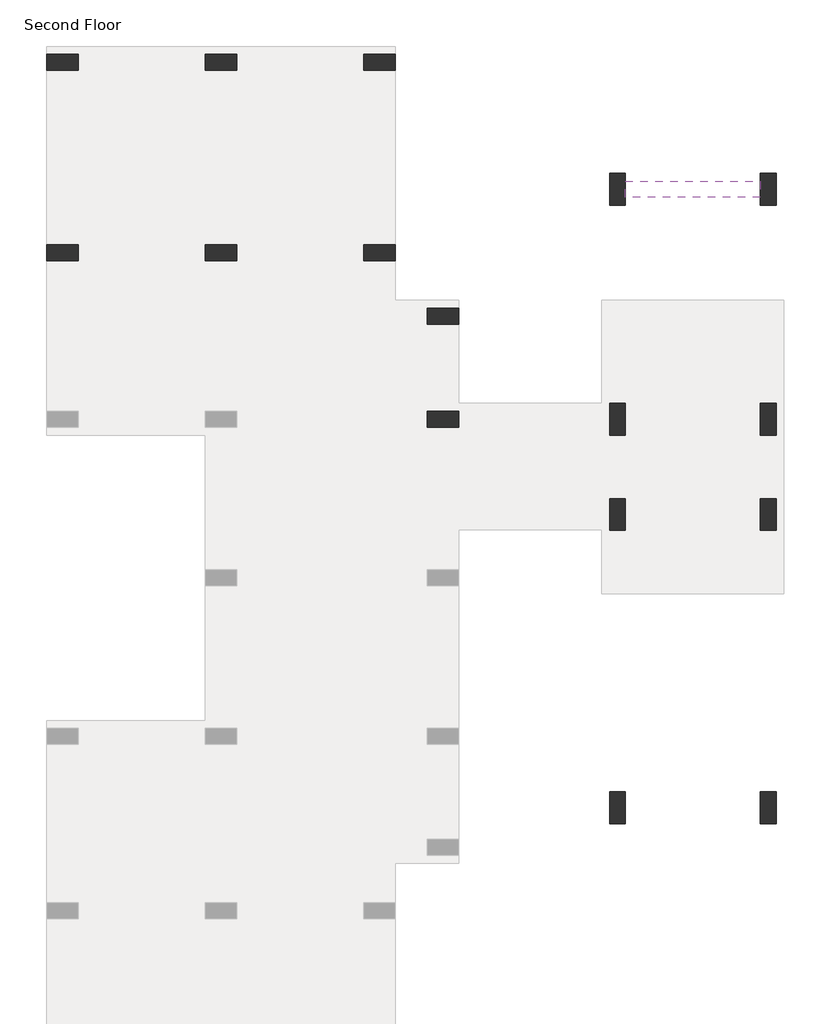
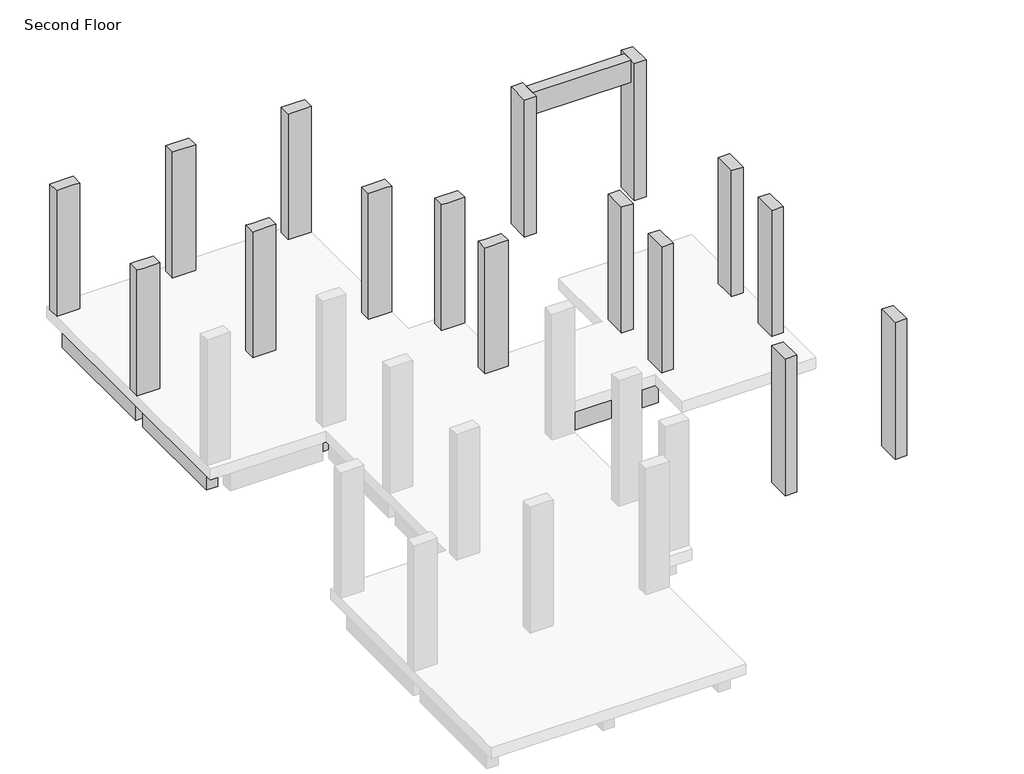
# One storey, part 2 of 2: 25 columns, 18 beams.
"""IFC4 building model written with IfcOpenShell, lengths in millimetres."""

import ifcopenshell
import ifcopenshell.guid

model = None  # the IFC model being written
_history = None  # IfcOwnerHistory: only IFC2X3 demands one
_inside = {}  # id of a spatial element -> (the spatial element, [elements in it])
_under = {}  # id of a project, library or spatial element -> (it, [spatial elements below it])
_declared = {}  # id of a project -> (the project, [libraries it declares])
_typed = {}  # id of a type object -> (the type object, [elements of that type])
_made_of = {}  # id of a material, layer set ... -> (it, [elements and type objects made of it])


def new_model(schema):
    """Start an empty IFC model of exactly this schema.

    Asked for "IFC4X3", IfcOpenShell would pick the latest addendum, in which some entities
    have other attributes; the version numbers below select the first issue.
    IFC2X3 requires an IfcOwnerHistory on every rooted entity: one is made here for all.
    """
    global model, _history
    if schema == "IFC4X3":
        model = ifcopenshell.file(schema_version=(4, 3, 0, 0))
    else:
        model = ifcopenshell.file(schema=schema)
    _inside.clear()
    _under.clear()
    _declared.clear()
    _typed.clear()
    _made_of.clear()
    _history = None
    if model.schema == "IFC2X3":
        org = make("IfcOrganization", Name="unknown")
        user = make(
            "IfcPersonAndOrganization",
            ThePerson=make("IfcPerson", FamilyName="unknown"),
            TheOrganization=org,
        )
        app = make(
            "IfcApplication",
            ApplicationDeveloper=org,
            Version="unknown",
            ApplicationFullName="unknown",
            ApplicationIdentifier="unknown",
        )
        _history = make(
            "IfcOwnerHistory",
            OwningUser=user,
            OwningApplication=app,
            ChangeAction="ADDED",
            CreationDate=0,
        )
    return model


def make(cls, **values):
    """One entity of the class cls with the attributes given. An attribute that is None is left unset."""
    return model.create_entity(
        cls, **{name: value for name, value in values.items() if value is not None}
    )


def rooted(cls, **values):
    """An entity with a GlobalId (a new one), such as an element, a storey or a relation."""
    return make(cls, GlobalId=ifcopenshell.guid.new(), OwnerHistory=_history, **values)


def si_unit(unit_type, name, prefix=None):
    """IfcSIUnit, for example si_unit("LENGTHUNIT", "METRE", prefix="MILLI")."""
    return make("IfcSIUnit", UnitType=unit_type, Prefix=prefix, Name=name)


def assignment(units):
    """IfcUnitAssignment: the units of a project."""
    return None if units is None else make("IfcUnitAssignment", Units=units)


def point(xyz):
    """IfcCartesianPoint."""
    return None if xyz is None else make("IfcCartesianPoint", Coordinates=xyz)


def direction(xyz):
    """IfcDirection."""
    return None if xyz is None else make("IfcDirection", DirectionRatios=xyz)


def frame(location, z_axis=None, x_axis=None):
    """IfcAxis2Placement3D, a coordinate frame: its origin and axes. An axis left out is left unset."""
    return make(
        "IfcAxis2Placement3D",
        Location=point(location),
        Axis=direction(z_axis),
        RefDirection=direction(x_axis),
    )


def origin():
    """The frame at (0, 0, 0) with its axes left unset."""
    return frame((0.0, 0.0, 0.0))


def place(relative_to, where):
    """IfcLocalPlacement: puts the frame where relative to a parent placement (None: the world)."""
    return make(
        "IfcLocalPlacement", PlacementRelTo=relative_to, RelativePlacement=where
    )


def context(
    kind, dimensions, precision=None, world=None, true_north=None, identifier=None
):
    """IfcGeometricRepresentationContext, for example the 3D "Model" context."""
    return make(
        "IfcGeometricRepresentationContext",
        ContextIdentifier=identifier,
        ContextType=kind,
        CoordinateSpaceDimension=dimensions,
        Precision=precision,
        WorldCoordinateSystem=world,
        TrueNorth=true_north,
    )


def project(units=None, contexts=None):
    """IfcProject with its units and contexts."""
    return rooted(
        "IfcProject",
        Name="project",
        RepresentationContexts=contexts,
        UnitsInContext=assignment(units),
    )


def spatial(cls, under=None, at=None, **own):
    """A site, building, storey or space (cls), placed at a placement, below another one or the project."""
    s = rooted(cls, ObjectPlacement=at, **own)
    if under is not None:
        _under.setdefault(under.id(), (under, []))[1].append(s)
    return s


def polyline(points):
    """IfcPolyline through the points."""
    return make("IfcPolyline", Points=[point(p) for p in points])


def outline(outer, holes=None, kind="AREA"):
    """IfcArbitraryClosedProfileDef: a profile drawn as a closed curve; with holes, ...WithVoids."""
    if holes is None:
        return make("IfcArbitraryClosedProfileDef", ProfileType=kind, OuterCurve=outer)
    return make(
        "IfcArbitraryProfileDefWithVoids",
        ProfileType=kind,
        OuterCurve=outer,
        InnerCurves=holes,
    )


def extrude(swept, where, along, depth):
    """IfcExtrudedAreaSolid: the profile swept, set in the frame where, extruded along a direction by depth."""
    return make(
        "IfcExtrudedAreaSolid",
        SweptArea=swept,
        Position=where,
        ExtrudedDirection=direction(along),
        Depth=depth,
    )


def faces_of(points, faces, orient=None, outer=None):
    """IfcFace entities. A face is a list of loops; a loop is a list of indices into points, from 0.

    orient and outer hold one flag for each loop. By default every Orientation is true, the
    first loop of a face is its IfcFaceOuterBound and the others are IfcFaceBound.
    """
    made = []
    for i, loops in enumerate(faces):
        bounds = []
        for j, loop in enumerate(loops):
            is_outer = j == 0 if outer is None else outer[i][j]
            bounds.append(
                make(
                    "IfcFaceOuterBound" if is_outer else "IfcFaceBound",
                    Bound=make("IfcPolyLoop", Polygon=[points[k] for k in loop]),
                    Orientation=True if orient is None else orient[i][j],
                )
            )
        made.append(make("IfcFace", Bounds=bounds))
    return made


def faceted_brep(points, faces, orient=None, outer=None, voids=None):
    """IfcFacetedBrep: a solid bounded by flat faces; with voids (closed shells), ...WithVoids."""
    shared = [point(p) for p in points]
    hull = make("IfcClosedShell", CfsFaces=faces_of(shared, faces, orient, outer))
    if voids is None:
        return make("IfcFacetedBrep", Outer=hull)
    return make(
        "IfcFacetedBrepWithVoids",
        Outer=hull,
        Voids=[
            make(cls, CfsFaces=faces_of(shared, fs, o, b)) for cls, fs, o, b in voids
        ],
    )


def shape(context_of_items, identifier, shape_type, items):
    """IfcShapeRepresentation: the items that make up one representation, for example the "Body"."""
    return make(
        "IfcShapeRepresentation",
        ContextOfItems=context_of_items,
        RepresentationIdentifier=identifier,
        RepresentationType=shape_type,
        Items=items,
    )


def made_of(thing, what):
    """Note that an element or type object is made of a material, layer set ...; save() writes the relation."""
    if what is not None:
        _made_of.setdefault(what.id(), (what, []))[1].append(thing)
    return thing


def element(
    cls,
    number,
    at=None,
    inside=None,
    cuts=None,
    type_object=None,
    material=None,
    context=None,
    identifier="Body",
    shape_type=None,
    held_by="IfcProductDefinitionShape",
    body=None,
    shapes=None,
    **own,
):
    """One element of the class cls, such as IfcWall. Its Tag is "e" and its number.

    at: its placement. inside: the storey or other place that contains it. cuts: it is an
    opening in that element (IfcRelVoidsElement). A single representation is given by context,
    identifier, shape_type and body (its items); several are given by shapes. held_by: the class
    of the entity that holds the representations. save() writes the other relations.
    """
    e = rooted(cls, Tag="e%d" % number, ObjectPlacement=at, **own)
    if body is not None:
        shapes = [shape(context, identifier, shape_type, body)]
    if shapes is not None:
        e.Representation = make(held_by, Representations=shapes)
    if inside is not None:
        _inside.setdefault(inside.id(), (inside, []))[1].append(e)
    if cuts is not None:
        rooted(
            "IfcRelVoidsElement", RelatingBuildingElement=cuts, RelatedOpeningElement=e
        )
    if type_object is not None:
        _typed.setdefault(type_object.id(), (type_object, []))[1].append(e)
    return made_of(e, material)


def aggregate(whole, parts):
    """IfcRelAggregates: a whole, such as a stair, and the parts it consists of."""
    return rooted("IfcRelAggregates", RelatingObject=whole, RelatedObjects=parts)


def save(model, path):
    """Write the relations noted so far, then the file.

    IfcRelAggregates (storeys below a building ...), IfcRelContainedInSpatialStructure (elements
    in a storey), IfcRelDefinesByType, IfcRelAssociatesMaterial and IfcRelDeclares: one each for
    every whole, place, type object, material and project.
    """
    for whole, parts in _under.values():
        aggregate(whole, parts)
    for where, things in _inside.values():
        rooted(
            "IfcRelContainedInSpatialStructure",
            RelatedElements=things,
            RelatingStructure=where,
        )
    for kind, things in _typed.values():
        rooted("IfcRelDefinesByType", RelatedObjects=things, RelatingType=kind)
    for what, things in _made_of.values():
        rooted("IfcRelAssociatesMaterial", RelatedObjects=things, RelatingMaterial=what)
    for by, libraries in _declared.values():
        rooted("IfcRelDeclares", RelatingContext=by, RelatedDefinitions=libraries)
    model.write(path)


model = new_model("IFC4")

# Units and contexts
model_context = context("Model", 3, world=origin())
ifc_project = project(units=[si_unit("LENGTHUNIT", "METRE", prefix="MILLI")], contexts=[model_context])

# Site, building, storey
site = spatial("IfcSite", under=ifc_project)
building = spatial("IfcBuilding", under=site)
storey = spatial("IfcBuildingStorey", under=building, Name="Second Floor", Elevation=3810.0)

# Beams
placement = place(None, origin())
element("IfcBeam", 1, ObjectType="Concrete-Rectangular Beam : 12 x 24", at=placement, inside=storey, context=model_context, shape_type="SweptSolid", body=[
    extrude(outline(polyline([(-15067.9554735, 14342.1867088), (-15067.9554735, 14646.9867088), (-12629.5554735, 14646.9867088), (-12629.5554735, 14342.1867088), (-15067.9554735, 14342.1867088)])), frame((0.0, 0.0, 2895.6), z_axis=(0.0, 0.0, 1.0), x_axis=(1.0, 0.0, 0.0)), (0.0, 0.0, 1.0), 609.6),
])
element("IfcBeam", 2, ObjectType="Concrete-Rectangular Beam : 12 x 24", at=placement, inside=storey, context=model_context, shape_type="SweptSolid", body=[
    extrude(outline(polyline([(-12019.9554735, 14342.1867088), (-12019.9554735, 14646.9867088), (-9581.5554735, 14646.9867088), (-9581.5554735, 14342.1867088), (-12019.9554735, 14342.1867088)])), frame((0.0, 0.0, 2895.6), z_axis=(0.0, 0.0, 1.0), x_axis=(1.0, 0.0, 0.0)), (0.0, 0.0, 1.0), 609.6),
])
element("IfcBeam", 3, ObjectType="Concrete-Rectangular Beam : 12 x 24", at=placement, inside=storey, context=model_context, shape_type="SweptSolid", body=[
    extrude(outline(polyline([(-9429.1554735, 14342.1867088), (-9124.3554735, 14342.1867088), (-9124.3554735, 10989.3867088), (-9429.1554735, 10989.3867088), (-9429.1554735, 14342.1867088)])), frame((0.0, 0.0, 2895.6), z_axis=(0.0, 0.0, 1.0), x_axis=(1.0, 0.0, 0.0)), (0.0, 0.0, 1.0), 609.6),
])
element("IfcBeam", 4, ObjectType="Concrete-Rectangular Beam : 12 x 24", at=placement, inside=storey, context=model_context, shape_type="SweptSolid", body=[
    extrude(outline(polyline([(-7905.1554735, 7788.9867088), (-8209.9554735, 7788.9867088), (-8209.9554735, 9465.3867088), (-7905.1554735, 9465.3867088), (-7905.1554735, 7788.9867088)])), frame((0.0, 0.0, 2895.6), z_axis=(0.0, 0.0, 1.0), x_axis=(1.0, 0.0, 0.0)), (0.0, 0.0, 1.0), 609.6),
])
element("IfcBeam", 5, ObjectType="Concrete-Rectangular Beam : 12 x 24", at=placement, inside=storey, context=model_context, shape_type="Brep", body=[
    faceted_brep([(-9429.1554735, 9770.1867088, 3505.2), (-9429.1554735, 9465.3867088, 3505.2), (-8362.3554735, 9465.3867088, 3505.2), (-8362.3554735, 9770.1867088, 3505.2), (-9124.3554735, 9770.1867088, 3505.2), (-9429.1554735, 9770.1867088, 2895.6), (-8362.3554735, 9770.1867088, 2895.6), (-9124.3554735, 9770.1867088, 2895.6), (-9429.1554735, 9465.3867088, 2895.6), (-8362.3554735, 9465.3867088, 2895.6)], [[[0, 1, 2, 3, 4]], [[5, 0, 4, 3, 6, 7]], [[8, 5, 7, 6, 9]], [[1, 8, 9, 2]], [[3, 2, 9, 6]], [[1, 0, 5, 8]]]),
])
element("IfcBeam", 6, ObjectType="Concrete-Rectangular Beam : 12 x 24", at=placement, inside=storey, context=model_context, shape_type="SweptSolid", body=[
    extrude(outline(polyline([(-15525.1554735, 14342.1867088), (-15220.3554735, 14342.1867088), (-15220.3554735, 10989.3867088), (-15525.1554735, 10989.3867088), (-15525.1554735, 14342.1867088)])), frame((0.0, 0.0, 2895.6), z_axis=(0.0, 0.0, 1.0), x_axis=(1.0, 0.0, 0.0)), (0.0, 0.0, 1.0), 609.6),
])
element("IfcBeam", 7, ObjectType="Concrete-Rectangular Beam : 12 x 24", at=placement, inside=storey, context=model_context, shape_type="SweptSolid", body=[
    extrude(outline(polyline([(-12477.1554735, 14342.1867088), (-12172.3554735, 14342.1867088), (-12172.3554735, 10989.3867088), (-12477.1554735, 10989.3867088), (-12477.1554735, 14342.1867088)])), frame((0.0, 0.0, 2895.6), z_axis=(0.0, 0.0, 1.0), x_axis=(1.0, 0.0, 0.0)), (0.0, 0.0, 1.0), 609.6),
])
element("IfcBeam", 8, ObjectType="Concrete-Rectangular Beam : 12 x 24", at=placement, inside=storey, context=model_context, shape_type="SweptSolid", body=[
    extrude(outline(polyline([(-15067.9554735, 10684.5867088), (-15067.9554735, 10989.3867088), (-12629.5554735, 10989.3867088), (-12629.5554735, 10684.5867088), (-15067.9554735, 10684.5867088)])), frame((0.0, 0.0, 2895.6), z_axis=(0.0, 0.0, 1.0), x_axis=(1.0, 0.0, 0.0)), (0.0, 0.0, 1.0), 609.6),
])
element("IfcBeam", 9, ObjectType="Concrete-Rectangular Beam : 12 x 24", at=placement, inside=storey, context=model_context, shape_type="SweptSolid", body=[
    extrude(outline(polyline([(-12477.1554735, 10836.9867088), (-12172.3554735, 10836.9867088), (-12172.3554735, 7788.9867088), (-12477.1554735, 7788.9867088), (-12477.1554735, 10836.9867088)])), frame((0.0, 0.0, 2895.6), z_axis=(0.0, 0.0, 1.0), x_axis=(1.0, 0.0, 0.0)), (0.0, 0.0, 1.0), 609.6),
])
element("IfcBeam", 10, ObjectType="Concrete-Rectangular Beam : 12 x 24", at=placement, inside=storey, context=model_context, shape_type="SweptSolid", body=[
    extrude(outline(polyline([(-15525.1554735, 10684.5867088), (-15220.3554735, 10684.5867088), (-15220.3554735, 7788.9867088), (-15525.1554735, 7788.9867088), (-15525.1554735, 10684.5867088)])), frame((0.0, 0.0, 2895.6), z_axis=(0.0, 0.0, 1.0), x_axis=(1.0, 0.0, 0.0)), (0.0, 0.0, 1.0), 609.6),
])
element("IfcBeam", 11, ObjectType="Concrete-Rectangular Beam : 12 x 24", at=placement, inside=storey, context=model_context, shape_type="SweptSolid", body=[
    extrude(outline(polyline([(-4552.3554735, 5655.3867088), (-4552.3554735, 5960.1867088), (-1961.5554735, 5960.1867088), (-1961.5554735, 5655.3867088), (-4552.3554735, 5655.3867088)])), frame((0.0, 0.0, 2895.6), z_axis=(0.0, 0.0, 1.0), x_axis=(1.0, 0.0, 0.0)), (0.0, 0.0, 1.0), 609.6),
])
element("IfcBeam", 12, ObjectType="Concrete-Rectangular Beam : 12 x 24", at=placement, inside=storey, context=model_context, shape_type="SweptSolid", body=[
    extrude(outline(polyline([(-4857.1554735, 7788.9867088), (-4857.1554735, 7484.1867088), (-7752.7554735, 7484.1867088), (-7752.7554735, 7788.9867088), (-4857.1554735, 7788.9867088)])), frame((0.0, 0.0, 2895.6), z_axis=(0.0, 0.0, 1.0), x_axis=(1.0, 0.0, 0.0)), (0.0, 0.0, 1.0), 609.6),
])
element("IfcBeam", 13, ObjectType="Concrete-Rectangular Beam : 12 x 24", at=placement, inside=storey, context=model_context, shape_type="SweptSolid", body=[
    extrude(outline(polyline([(-4857.1554735, 5960.1867088), (-4857.1554735, 5655.3867088), (-7905.1554735, 5655.3867088), (-7905.1554735, 5960.1867088), (-4857.1554735, 5960.1867088)])), frame((0.0, 0.0, 2895.6), z_axis=(0.0, 0.0, 1.0), x_axis=(1.0, 0.0, 0.0)), (0.0, 0.0, 1.0), 609.6),
])
element("IfcBeam", 14, ObjectType="Concrete-Rectangular Beam : 12 x 24", at=placement, inside=storey, context=model_context, shape_type="SweptSolid", body=[
    extrude(outline(polyline([(-4552.3554735, 7484.1867088), (-4552.3554735, 7788.9867088), (-1961.5554735, 7788.9867088), (-1961.5554735, 7484.1867088), (-4552.3554735, 7484.1867088)])), frame((0.0, 0.0, 2895.6), z_axis=(0.0, 0.0, 1.0), x_axis=(1.0, 0.0, 0.0)), (0.0, 0.0, 1.0), 609.6),
])
element("IfcBeam", 15, ObjectType="Concrete-Rectangular Beam : 12 x 24", at=placement, inside=storey, context=model_context, shape_type="SweptSolid", body=[
    extrude(outline(polyline([(-12477.1554735, 10684.5867088), (-12172.3554735, 10684.5867088), (-12172.3554735, 7788.9867088), (-12477.1554735, 7788.9867088), (-12477.1554735, 10684.5867088)])), frame((0.0, 0.0, 2895.6), z_axis=(0.0, 0.0, 1.0), x_axis=(1.0, 0.0, 0.0)), (0.0, 0.0, 1.0), 609.6),
])
element("IfcBeam", 16, ObjectType="Concrete-Rectangular Beam : 12 x 24", at=placement, inside=storey, context=model_context, shape_type="SweptSolid", body=[
    extrude(outline(polyline([(-12019.9554735, 10684.5867088), (-12019.9554735, 10989.3867088), (-9581.5554735, 10989.3867088), (-9581.5554735, 10684.5867088), (-12019.9554735, 10684.5867088)])), frame((0.0, 0.0, 2895.6), z_axis=(0.0, 0.0, 1.0), x_axis=(1.0, 0.0, 0.0)), (0.0, 0.0, 1.0), 609.6),
])
element("IfcBeam", 17, ObjectType="Concrete-Rectangular Beam : 12 x 24", at=placement, inside=storey, context=model_context, shape_type="SweptSolid", body=[
    extrude(outline(polyline([(-9124.3554735, 9770.1867088), (-9429.1554735, 9770.1867088), (-9429.1554735, 10684.5867088), (-9124.3554735, 10684.5867088), (-9124.3554735, 9770.1867088)])), frame((0.0, 0.0, 2895.6), z_axis=(0.0, 0.0, 1.0), x_axis=(1.0, 0.0, 0.0)), (0.0, 0.0, 1.0), 609.6),
])
element("IfcBeam", 18, ObjectType="Concrete-Rectangular Beam : 12 x 24", at=placement, inside=storey, context=model_context, shape_type="SweptSolid", body=[
    extrude(outline(polyline([(-4552.3554735, 11903.7867088), (-4552.3554735, 12208.5867088), (-1961.5554735, 12208.5867088), (-1961.5554735, 11903.7867088), (-4552.3554735, 11903.7867088)])), frame((0.0, 0.0, 7010.4), z_axis=(0.0, 0.0, 1.0), x_axis=(1.0, 0.0, 0.0)), (0.0, 0.0, 1.0), 609.6),
])

# Columns
element("IfcColumn", 19, ObjectType="Concrete-Rectangular-Column : 12 x 24", at=placement, inside=storey, context=model_context, shape_type="Brep", body=[
    faceted_brep([(-15677.5554735, 14646.9867088, 3810.0), (-15067.9554735, 14646.9867088, 3810.0), (-15067.9554735, 14342.1867088, 3810.0), (-15677.5554735, 14342.1867088, 3810.0), (-15677.5554735, 14646.9867088, 7315.2), (-15067.9554735, 14646.9867088, 7315.2), (-15067.9554735, 14646.9867088, 6705.6), (-15067.9554735, 14342.1867088, 7315.2), (-15067.9554735, 14342.1867088, 6705.6), (-15220.3554735, 14342.1867088, 7315.2), (-15525.1554735, 14342.1867088, 7315.2), (-15677.5554735, 14342.1867088, 7315.2)], [[[0, 1, 2, 3]], [[4, 5, 6, 1, 0]], [[5, 7, 8, 2, 1, 6]], [[7, 9, 10, 11, 3, 2, 8]], [[11, 4, 0, 3]], [[4, 11, 10, 9, 7, 5]]]),
])
element("IfcColumn", 20, ObjectType="Concrete-Rectangular-Column : 12 x 24", at=placement, inside=storey, context=model_context, shape_type="Brep", body=[
    faceted_brep([(-12629.5554735, 14646.9867088, 3810.0), (-12019.9554735, 14646.9867088, 3810.0), (-12019.9554735, 14342.1867088, 3810.0), (-12629.5554735, 14342.1867088, 3810.0), (-12629.5554735, 14646.9867088, 7315.2), (-12019.9554735, 14646.9867088, 7315.2), (-12019.9554735, 14646.9867088, 6705.6), (-12629.5554735, 14646.9867088, 6705.6), (-12019.9554735, 14342.1867088, 7315.2), (-12019.9554735, 14342.1867088, 6705.6), (-12172.3554735, 14342.1867088, 7315.2), (-12477.1554735, 14342.1867088, 7315.2), (-12629.5554735, 14342.1867088, 7315.2), (-12629.5554735, 14342.1867088, 6705.6)], [[[0, 1, 2, 3]], [[4, 5, 6, 1, 0, 7]], [[5, 8, 9, 2, 1, 6]], [[8, 10, 11, 12, 13, 3, 2, 9]], [[12, 4, 7, 0, 3, 13]], [[4, 12, 11, 10, 8, 5]]]),
])
element("IfcColumn", 21, ObjectType="Concrete-Rectangular-Column : 12 x 24", at=placement, inside=storey, context=model_context, shape_type="Brep", body=[
    faceted_brep([(-9581.5554735, 14646.9867088, 3810.0), (-8971.9554735, 14646.9867088, 3810.0), (-8971.9554735, 14342.1867088, 3810.0), (-9581.5554735, 14342.1867088, 3810.0), (-9581.5554735, 14646.9867088, 7315.2), (-8971.9554735, 14646.9867088, 7315.2), (-9581.5554735, 14646.9867088, 6705.6), (-8971.9554735, 14342.1867088, 7315.2), (-9124.3554735, 14342.1867088, 7315.2), (-9429.1554735, 14342.1867088, 7315.2), (-9581.5554735, 14342.1867088, 7315.2), (-9581.5554735, 14342.1867088, 6705.6)], [[[0, 1, 2, 3]], [[4, 5, 1, 0, 6]], [[5, 7, 2, 1]], [[7, 8, 9, 10, 11, 3, 2]], [[10, 4, 6, 0, 3, 11]], [[4, 10, 9, 8, 7, 5]]]),
])
element("IfcColumn", 22, ObjectType="Concrete-Rectangular-Column : 12 x 24", at=placement, inside=storey, context=model_context, shape_type="Brep", body=[
    faceted_brep([(-15677.5554735, 10989.3867088, 3810.0), (-15067.9554735, 10989.3867088, 3810.0), (-15067.9554735, 10684.5867088, 3810.0), (-15677.5554735, 10684.5867088, 3810.0), (-15677.5554735, 10989.3867088, 7315.2), (-15525.1554735, 10989.3867088, 7315.2), (-15220.3554735, 10989.3867088, 7315.2), (-15067.9554735, 10989.3867088, 7315.2), (-15067.9554735, 10989.3867088, 6705.6), (-15067.9554735, 10684.5867088, 7315.2), (-15067.9554735, 10684.5867088, 6705.6), (-15220.3554735, 10684.5867088, 7315.2), (-15525.1554735, 10684.5867088, 7315.2), (-15677.5554735, 10684.5867088, 7315.2)], [[[0, 1, 2, 3]], [[4, 5, 6, 7, 8, 1, 0]], [[7, 9, 10, 2, 1, 8]], [[9, 11, 12, 13, 3, 2, 10]], [[13, 4, 0, 3]], [[4, 13, 12, 11, 9, 7, 6, 5]]]),
])
element("IfcColumn", 23, ObjectType="Concrete-Rectangular-Column : 12 x 24", at=placement, inside=storey, context=model_context, shape_type="Brep", body=[
    faceted_brep([(-12629.5554735, 10989.3867088, 3810.0), (-12019.9554735, 10989.3867088, 3810.0), (-12019.9554735, 10684.5867088, 3810.0), (-12629.5554735, 10684.5867088, 3810.0), (-12629.5554735, 10989.3867088, 7315.2), (-12477.1554735, 10989.3867088, 7315.2), (-12172.3554735, 10989.3867088, 7315.2), (-12019.9554735, 10989.3867088, 7315.2), (-12019.9554735, 10989.3867088, 6705.6), (-12629.5554735, 10989.3867088, 6705.6), (-12019.9554735, 10684.5867088, 7315.2), (-12019.9554735, 10684.5867088, 6705.6), (-12172.3554735, 10684.5867088, 7315.2), (-12477.1554735, 10684.5867088, 7315.2), (-12629.5554735, 10684.5867088, 7315.2), (-12629.5554735, 10684.5867088, 6705.6)], [[[0, 1, 2, 3]], [[4, 5, 6, 7, 8, 1, 0, 9]], [[7, 10, 11, 2, 1, 8]], [[10, 12, 13, 14, 15, 3, 2, 11]], [[14, 4, 9, 0, 3, 15]], [[4, 14, 13, 12, 10, 7, 6, 5]]]),
])
element("IfcColumn", 24, ObjectType="Concrete-Rectangular-Column : 12 x 24", at=placement, inside=storey, context=model_context, shape_type="Brep", body=[
    faceted_brep([(-9581.5554735, 10989.3867088, 3810.0), (-8971.9554735, 10989.3867088, 3810.0), (-8971.9554735, 10684.5867088, 3810.0), (-9581.5554735, 10684.5867088, 3810.0), (-9581.5554735, 10989.3867088, 7315.2), (-9429.1554735, 10989.3867088, 7315.2), (-9124.3554735, 10989.3867088, 7315.2), (-8971.9554735, 10989.3867088, 7315.2), (-9581.5554735, 10989.3867088, 6705.6), (-8971.9554735, 10684.5867088, 7315.2), (-9124.3554735, 10684.5867088, 7315.2), (-9429.1554735, 10684.5867088, 7315.2), (-9581.5554735, 10684.5867088, 7315.2), (-9581.5554735, 10684.5867088, 6705.6)], [[[0, 1, 2, 3]], [[4, 5, 6, 7, 1, 0, 8]], [[7, 9, 2, 1]], [[9, 10, 11, 12, 13, 3, 2]], [[12, 4, 8, 0, 3, 13]], [[4, 12, 11, 10, 9, 7, 6, 5]]]),
])
element("IfcColumn", 25, ObjectType="Concrete-Rectangular-Column : 12 x 24", at=placement, inside=storey, context=model_context, shape_type="Brep", body=[
    faceted_brep([(-8362.3554735, 7788.9867088, 3810.0), (-7752.7554735, 7788.9867088, 3810.0), (-7752.7554735, 7484.1867088, 3810.0), (-8362.3554735, 7484.1867088, 3810.0), (-8362.3554735, 7788.9867088, 7315.2), (-8209.9554735, 7788.9867088, 7315.2), (-7905.1554735, 7788.9867088, 7315.2), (-7752.7554735, 7788.9867088, 7315.2), (-7752.7554735, 7788.9867088, 6705.6), (-8362.3554735, 7788.9867088, 6705.6), (-7752.7554735, 7484.1867088, 7315.2), (-7752.7554735, 7484.1867088, 6705.6), (-7905.1554735, 7484.1867088, 7315.2), (-8209.9554735, 7484.1867088, 7315.2), (-8362.3554735, 7484.1867088, 7315.2), (-8362.3554735, 7484.1867088, 6705.6)], [[[0, 1, 2, 3]], [[4, 5, 6, 7, 8, 1, 0, 9]], [[7, 10, 11, 2, 1, 8]], [[10, 12, 13, 14, 15, 3, 2, 11]], [[14, 4, 9, 0, 3, 15]], [[4, 14, 13, 12, 10, 7, 6, 5]]]),
])
element("IfcColumn", 26, ObjectType="Concrete-Rectangular-Column : 12 x 24", at=placement, inside=storey, context=model_context, shape_type="Brep", body=[
    faceted_brep([(-8362.3554735, 9770.1867088, 3810.0), (-7752.7554735, 9770.1867088, 3810.0), (-7752.7554735, 9465.3867088, 3810.0), (-8362.3554735, 9465.3867088, 3810.0), (-8362.3554735, 9770.1867088, 7315.2), (-7752.7554735, 9770.1867088, 7315.2), (-8362.3554735, 9770.1867088, 6705.6), (-7752.7554735, 9465.3867088, 7315.2), (-7905.1554735, 9465.3867088, 7315.2), (-8209.9554735, 9465.3867088, 7315.2), (-8362.3554735, 9465.3867088, 7315.2), (-8362.3554735, 9465.3867088, 6705.6)], [[[0, 1, 2, 3]], [[4, 5, 1, 0, 6]], [[5, 7, 2, 1]], [[7, 8, 9, 10, 11, 3, 2]], [[10, 4, 6, 0, 3, 11]], [[4, 10, 9, 8, 7, 5]]]),
])
element("IfcColumn", 27, ObjectType="Concrete-Rectangular-Column : 12 x 24", at=placement, inside=storey, context=model_context, shape_type="Brep", body=[
    faceted_brep([(-4552.3554735, 12360.9867088, 3810.0), (-4552.3554735, 11751.3867088, 3810.0), (-4857.1554735, 11751.3867088, 3810.0), (-4857.1554735, 12360.9867088, 3810.0), (-4552.3554735, 12360.9867088, 7620.0), (-4552.3554735, 11751.3867088, 7620.0), (-4552.3554735, 11751.3867088, 7315.2), (-4552.3554735, 11751.3867088, 6705.6), (-4857.1554735, 11751.3867088, 7620.0), (-4857.1554735, 11751.3867088, 7315.2), (-4857.1554735, 11751.3867088, 6705.6), (-4857.1554735, 12360.9867088, 7620.0)], [[[0, 1, 2, 3]], [[4, 5, 6, 7, 1, 0]], [[5, 8, 9, 10, 2, 1, 7, 6]], [[8, 11, 3, 2, 10, 9]], [[11, 4, 0, 3]], [[4, 11, 8, 5]]]),
])
element("IfcColumn", 28, ObjectType="Concrete-Rectangular-Column : 12 x 24", at=placement, inside=storey, context=model_context, shape_type="Brep", body=[
    faceted_brep([(-1656.7554735, 12360.9867088, 3810.0), (-1656.7554735, 11751.3867088, 3810.0), (-1961.5554735, 11751.3867088, 3810.0), (-1961.5554735, 12360.9867088, 3810.0), (-1656.7554735, 12360.9867088, 7620.0), (-1656.7554735, 11751.3867088, 7620.0), (-1656.7554735, 11751.3867088, 7315.2), (-1656.7554735, 11751.3867088, 6705.6), (-1961.5554735, 11751.3867088, 7620.0), (-1961.5554735, 11751.3867088, 7315.2), (-1961.5554735, 11751.3867088, 6705.6), (-1961.5554735, 12360.9867088, 7620.0)], [[[0, 1, 2, 3]], [[4, 5, 6, 7, 1, 0]], [[5, 8, 9, 10, 2, 1, 7, 6]], [[8, 11, 3, 2, 10, 9]], [[11, 4, 0, 3]], [[4, 11, 8, 5]]]),
])
element("IfcColumn", 29, ObjectType="Concrete-Rectangular-Column : 12 x 24", at=placement, inside=storey, context=model_context, shape_type="SweptSolid", body=[
    extrude(outline(polyline([(-4857.1554735, 7331.7867088), (-4857.1554735, 7941.3867088), (-4552.3554735, 7941.3867088), (-4552.3554735, 7331.7867088), (-4857.1554735, 7331.7867088)])), frame((0.0, 0.0, 3810.0), z_axis=(0.0, 0.0, 1.0), x_axis=(1.0, 0.0, 0.0)), (0.0, 0.0, 1.0), 3505.2),
])
element("IfcColumn", 30, ObjectType="Concrete-Rectangular-Column : 12 x 24", at=placement, inside=storey, context=model_context, shape_type="SweptSolid", body=[
    extrude(outline(polyline([(-4552.3554735, 6112.5867088), (-4552.3554735, 5502.9867088), (-4857.1554735, 5502.9867088), (-4857.1554735, 6112.5867088), (-4552.3554735, 6112.5867088)])), frame((0.0, 0.0, 3810.0), z_axis=(0.0, 0.0, 1.0), x_axis=(1.0, 0.0, 0.0)), (0.0, 0.0, 1.0), 3505.2),
])
element("IfcColumn", 31, ObjectType="Concrete-Rectangular-Column : 12 x 24", at=placement, inside=storey, context=model_context, shape_type="SweptSolid", body=[
    extrude(outline(polyline([(-4552.3554735, 473.7867088), (-4552.3554735, -135.8132912), (-4857.1554735, -135.8132912), (-4857.1554735, 473.7867088), (-4552.3554735, 473.7867088)])), frame((0.0, 0.0, 3810.0), z_axis=(0.0, 0.0, 1.0), x_axis=(1.0, 0.0, 0.0)), (0.0, 0.0, 1.0), 3810.0),
])
element("IfcColumn", 32, ObjectType="Concrete-Rectangular-Column : 12 x 24", at=placement, inside=storey, context=model_context, shape_type="SweptSolid", body=[
    extrude(outline(polyline([(-1656.7554735, 473.7867088), (-1656.7554735, -135.8132912), (-1961.5554735, -135.8132912), (-1961.5554735, 473.7867088), (-1656.7554735, 473.7867088)])), frame((0.0, 0.0, 3810.0), z_axis=(0.0, 0.0, 1.0), x_axis=(1.0, 0.0, 0.0)), (0.0, 0.0, 1.0), 3810.0),
])
element("IfcColumn", 33, ObjectType="Concrete-Rectangular-Column : 12 x 24", at=placement, inside=storey, context=model_context, shape_type="SweptSolid", body=[
    extrude(outline(polyline([(-1961.5554735, 7331.7867088), (-1961.5554735, 7941.3867088), (-1656.7554735, 7941.3867088), (-1656.7554735, 7331.7867088), (-1961.5554735, 7331.7867088)])), frame((0.0, 0.0, 3810.0), z_axis=(0.0, 0.0, 1.0), x_axis=(1.0, 0.0, 0.0)), (0.0, 0.0, 1.0), 3505.2),
])
element("IfcColumn", 34, ObjectType="Concrete-Rectangular-Column : 12 x 24", at=placement, inside=storey, context=model_context, shape_type="SweptSolid", body=[
    extrude(outline(polyline([(-1656.7554735, 6112.5867088), (-1656.7554735, 5502.9867088), (-1961.5554735, 5502.9867088), (-1961.5554735, 6112.5867088), (-1656.7554735, 6112.5867088)])), frame((0.0, 0.0, 3810.0), z_axis=(0.0, 0.0, 1.0), x_axis=(1.0, 0.0, 0.0)), (0.0, 0.0, 1.0), 3505.2),
])
element("IfcColumn", 35, ObjectType="Concrete-Rectangular-Column : 12 x 24", at=placement, inside=storey, context=model_context, shape_type="Brep", body=[
    faceted_brep([(-15677.5554735, 14646.9867088, 3810.0), (-15067.9554735, 14646.9867088, 3810.0), (-15067.9554735, 14342.1867088, 3810.0), (-15677.5554735, 14342.1867088, 3810.0), (-15677.5554735, 14646.9867088, 7315.2), (-15067.9554735, 14646.9867088, 7315.2), (-15067.9554735, 14646.9867088, 6705.6), (-15067.9554735, 14342.1867088, 7315.2), (-15067.9554735, 14342.1867088, 6705.6), (-15220.3554735, 14342.1867088, 7315.2), (-15525.1554735, 14342.1867088, 7315.2), (-15677.5554735, 14342.1867088, 7315.2)], [[[0, 1, 2, 3]], [[4, 5, 6, 1, 0]], [[5, 7, 8, 2, 1, 6]], [[7, 9, 10, 11, 3, 2, 8]], [[11, 4, 0, 3]], [[4, 11, 10, 9, 7, 5]]]),
])
element("IfcColumn", 36, ObjectType="Concrete-Rectangular-Column : 12 x 24", at=placement, inside=storey, context=model_context, shape_type="Brep", body=[
    faceted_brep([(-12629.5554735, 14646.9867088, 3810.0), (-12019.9554735, 14646.9867088, 3810.0), (-12019.9554735, 14342.1867088, 3810.0), (-12629.5554735, 14342.1867088, 3810.0), (-12629.5554735, 14646.9867088, 7315.2), (-12019.9554735, 14646.9867088, 7315.2), (-12019.9554735, 14646.9867088, 6705.6), (-12629.5554735, 14646.9867088, 6705.6), (-12019.9554735, 14342.1867088, 7315.2), (-12019.9554735, 14342.1867088, 6705.6), (-12172.3554735, 14342.1867088, 7315.2), (-12477.1554735, 14342.1867088, 7315.2), (-12629.5554735, 14342.1867088, 7315.2), (-12629.5554735, 14342.1867088, 6705.6)], [[[0, 1, 2, 3]], [[4, 5, 6, 1, 0, 7]], [[5, 8, 9, 2, 1, 6]], [[8, 10, 11, 12, 13, 3, 2, 9]], [[12, 4, 7, 0, 3, 13]], [[4, 12, 11, 10, 8, 5]]]),
])
element("IfcColumn", 37, ObjectType="Concrete-Rectangular-Column : 12 x 24", at=placement, inside=storey, context=model_context, shape_type="Brep", body=[
    faceted_brep([(-9581.5554735, 14646.9867088, 3810.0), (-8971.9554735, 14646.9867088, 3810.0), (-8971.9554735, 14342.1867088, 3810.0), (-9581.5554735, 14342.1867088, 3810.0), (-9581.5554735, 14646.9867088, 7315.2), (-8971.9554735, 14646.9867088, 7315.2), (-9581.5554735, 14646.9867088, 6705.6), (-8971.9554735, 14342.1867088, 7315.2), (-9124.3554735, 14342.1867088, 7315.2), (-9429.1554735, 14342.1867088, 7315.2), (-9581.5554735, 14342.1867088, 7315.2), (-9581.5554735, 14342.1867088, 6705.6)], [[[0, 1, 2, 3]], [[4, 5, 1, 0, 6]], [[5, 7, 2, 1]], [[7, 8, 9, 10, 11, 3, 2]], [[10, 4, 6, 0, 3, 11]], [[4, 10, 9, 8, 7, 5]]]),
])
element("IfcColumn", 38, ObjectType="Concrete-Rectangular-Column : 12 x 24", at=placement, inside=storey, context=model_context, shape_type="Brep", body=[
    faceted_brep([(-15677.5554735, 10989.3867088, 3810.0), (-15067.9554735, 10989.3867088, 3810.0), (-15067.9554735, 10684.5867088, 3810.0), (-15677.5554735, 10684.5867088, 3810.0), (-15677.5554735, 10989.3867088, 7315.2), (-15525.1554735, 10989.3867088, 7315.2), (-15220.3554735, 10989.3867088, 7315.2), (-15067.9554735, 10989.3867088, 7315.2), (-15067.9554735, 10989.3867088, 6705.6), (-15067.9554735, 10684.5867088, 7315.2), (-15067.9554735, 10684.5867088, 6705.6), (-15220.3554735, 10684.5867088, 7315.2), (-15525.1554735, 10684.5867088, 7315.2), (-15677.5554735, 10684.5867088, 7315.2)], [[[0, 1, 2, 3]], [[4, 5, 6, 7, 8, 1, 0]], [[7, 9, 10, 2, 1, 8]], [[9, 11, 12, 13, 3, 2, 10]], [[13, 4, 0, 3]], [[4, 13, 12, 11, 9, 7, 6, 5]]]),
])
element("IfcColumn", 39, ObjectType="Concrete-Rectangular-Column : 12 x 24", at=placement, inside=storey, context=model_context, shape_type="Brep", body=[
    faceted_brep([(-12629.5554735, 10989.3867088, 3810.0), (-12019.9554735, 10989.3867088, 3810.0), (-12019.9554735, 10684.5867088, 3810.0), (-12629.5554735, 10684.5867088, 3810.0), (-12629.5554735, 10989.3867088, 7315.2), (-12477.1554735, 10989.3867088, 7315.2), (-12172.3554735, 10989.3867088, 7315.2), (-12019.9554735, 10989.3867088, 7315.2), (-12019.9554735, 10989.3867088, 6705.6), (-12629.5554735, 10989.3867088, 6705.6), (-12019.9554735, 10684.5867088, 7315.2), (-12019.9554735, 10684.5867088, 6705.6), (-12172.3554735, 10684.5867088, 7315.2), (-12477.1554735, 10684.5867088, 7315.2), (-12629.5554735, 10684.5867088, 7315.2), (-12629.5554735, 10684.5867088, 6705.6)], [[[0, 1, 2, 3]], [[4, 5, 6, 7, 8, 1, 0, 9]], [[7, 10, 11, 2, 1, 8]], [[10, 12, 13, 14, 15, 3, 2, 11]], [[14, 4, 9, 0, 3, 15]], [[4, 14, 13, 12, 10, 7, 6, 5]]]),
])
element("IfcColumn", 40, ObjectType="Concrete-Rectangular-Column : 12 x 24", at=placement, inside=storey, context=model_context, shape_type="Brep", body=[
    faceted_brep([(-9581.5554735, 10989.3867088, 3810.0), (-8971.9554735, 10989.3867088, 3810.0), (-8971.9554735, 10684.5867088, 3810.0), (-9581.5554735, 10684.5867088, 3810.0), (-9581.5554735, 10989.3867088, 7315.2), (-9429.1554735, 10989.3867088, 7315.2), (-9124.3554735, 10989.3867088, 7315.2), (-8971.9554735, 10989.3867088, 7315.2), (-9581.5554735, 10989.3867088, 6705.6), (-8971.9554735, 10684.5867088, 7315.2), (-9124.3554735, 10684.5867088, 7315.2), (-9429.1554735, 10684.5867088, 7315.2), (-9581.5554735, 10684.5867088, 7315.2), (-9581.5554735, 10684.5867088, 6705.6)], [[[0, 1, 2, 3]], [[4, 5, 6, 7, 1, 0, 8]], [[7, 9, 2, 1]], [[9, 10, 11, 12, 13, 3, 2]], [[12, 4, 8, 0, 3, 13]], [[4, 12, 11, 10, 9, 7, 6, 5]]]),
])
element("IfcColumn", 41, ObjectType="Concrete-Rectangular-Column : 12 x 24", at=placement, inside=storey, context=model_context, shape_type="Brep", body=[
    faceted_brep([(-8362.3554735, 7788.9867088, 3810.0), (-7752.7554735, 7788.9867088, 3810.0), (-7752.7554735, 7484.1867088, 3810.0), (-8362.3554735, 7484.1867088, 3810.0), (-8362.3554735, 7788.9867088, 7315.2), (-8209.9554735, 7788.9867088, 7315.2), (-7905.1554735, 7788.9867088, 7315.2), (-7752.7554735, 7788.9867088, 7315.2), (-7752.7554735, 7788.9867088, 6705.6), (-8362.3554735, 7788.9867088, 6705.6), (-7752.7554735, 7484.1867088, 7315.2), (-7752.7554735, 7484.1867088, 6705.6), (-7905.1554735, 7484.1867088, 7315.2), (-8209.9554735, 7484.1867088, 7315.2), (-8362.3554735, 7484.1867088, 7315.2), (-8362.3554735, 7484.1867088, 6705.6)], [[[0, 1, 2, 3]], [[4, 5, 6, 7, 8, 1, 0, 9]], [[7, 10, 11, 2, 1, 8]], [[10, 12, 13, 14, 15, 3, 2, 11]], [[14, 4, 9, 0, 3, 15]], [[4, 14, 13, 12, 10, 7, 6, 5]]]),
])
element("IfcColumn", 42, ObjectType="Concrete-Rectangular-Column : 12 x 24", at=placement, inside=storey, context=model_context, shape_type="Brep", body=[
    faceted_brep([(-8362.3554735, 9770.1867088, 3810.0), (-7752.7554735, 9770.1867088, 3810.0), (-7752.7554735, 9465.3867088, 3810.0), (-8362.3554735, 9465.3867088, 3810.0), (-8362.3554735, 9770.1867088, 7315.2), (-7752.7554735, 9770.1867088, 7315.2), (-8362.3554735, 9770.1867088, 6705.6), (-7752.7554735, 9465.3867088, 7315.2), (-7905.1554735, 9465.3867088, 7315.2), (-8209.9554735, 9465.3867088, 7315.2), (-8362.3554735, 9465.3867088, 7315.2), (-8362.3554735, 9465.3867088, 6705.6)], [[[0, 1, 2, 3]], [[4, 5, 1, 0, 6]], [[5, 7, 2, 1]], [[7, 8, 9, 10, 11, 3, 2]], [[10, 4, 6, 0, 3, 11]], [[4, 10, 9, 8, 7, 5]]]),
])
element("IfcColumn", 43, ObjectType="Concrete-Rectangular-Column : 12 x 24", at=placement, inside=storey, context=model_context, shape_type="Brep", body=[
    faceted_brep([(-4552.3554735, 12360.9867088, 3810.0), (-4552.3554735, 11751.3867088, 3810.0), (-4857.1554735, 11751.3867088, 3810.0), (-4857.1554735, 12360.9867088, 3810.0), (-4552.3554735, 12360.9867088, 7620.0), (-4552.3554735, 12208.5867088, 7620.0), (-4552.3554735, 11903.7867088, 7620.0), (-4552.3554735, 11751.3867088, 7620.0), (-4552.3554735, 11751.3867088, 7315.2), (-4552.3554735, 11751.3867088, 6705.6), (-4857.1554735, 11751.3867088, 7620.0), (-4857.1554735, 11751.3867088, 7315.2), (-4857.1554735, 11751.3867088, 6705.6), (-4857.1554735, 12360.9867088, 7620.0)], [[[0, 1, 2, 3]], [[4, 5, 6, 7, 8, 9, 1, 0]], [[7, 10, 11, 12, 2, 1, 9, 8]], [[10, 13, 3, 2, 12, 11]], [[13, 4, 0, 3]], [[4, 13, 10, 7, 6, 5]]]),
])

save(model, "model.ifc")
